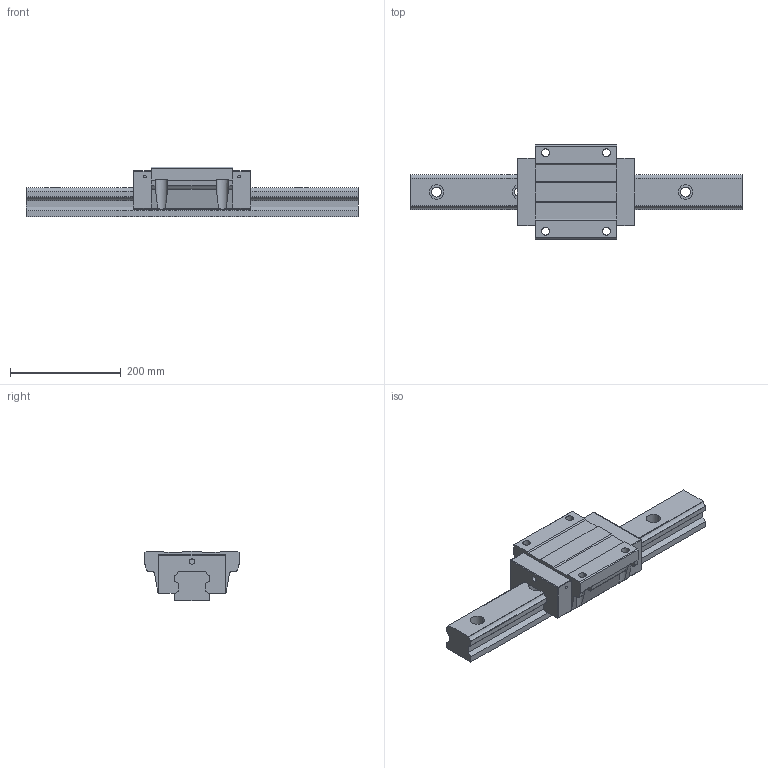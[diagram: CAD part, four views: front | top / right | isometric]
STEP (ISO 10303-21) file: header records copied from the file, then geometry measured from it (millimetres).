
FILE_DESCRIPTION (( 'STEP AP203' ), '1' );
FILE_NAME ('TRH65FL-SZ.STEP', '2024-06-26T06:58:49', ( '' ), ( '' ), 'SwSTEP 2.0', 'SolidWorks 2022', '' );
FILE_SCHEMA (( 'CONFIG_CONTROL_DESIGN' ));
Length unit declared in the file: millimetre
Products named in the file (1): TRH65FL-SZ
Bounding box: 600 x 170 x 90 mm (x, y, z)
Volume: 3294306.2 mm3; surface area: 302532.4 mm2
Topology: 2 solids, 2 shells, 222 faces, 616 edges, 404 vertices
Faces by surface type: plane 120, cylinder 98, sphere 4
Entity records: 7305 total; most frequent: CARTESIAN_POINT 1425, ORIENTED_EDGE 1224, DIRECTION 1220, EDGE_CURVE 612, AXIS2_PLACEMENT_3D 415, VERTEX_POINT 404, LINE 390, VECTOR 390
